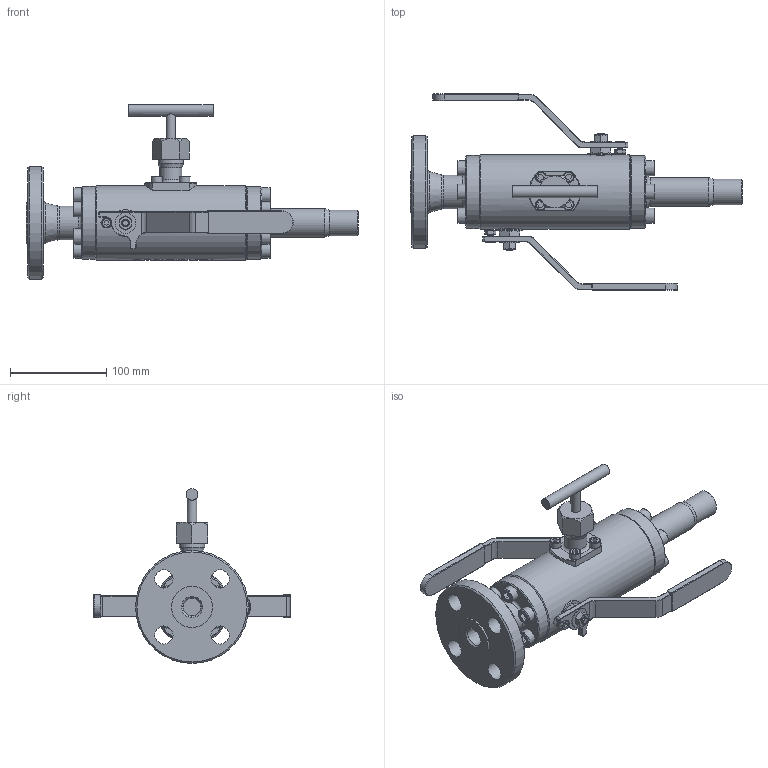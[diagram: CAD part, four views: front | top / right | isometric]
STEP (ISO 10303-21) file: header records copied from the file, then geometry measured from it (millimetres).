
FILE_DESCRIPTION(/* description */ (''),/* implementation_level */ '2;1');
FILE_NAME(/* name */ 'C:\Users\pc\Desktop\TFED-¾-300-PT-RFxPL-PALANCA.stp',/* time_stamp */ '2022-09-07T09:51:08-03:00',/* author */ ('pc'),/* organization */ (''),/* preprocessor_version */ 'ST-DEVELOPER v18',/* originating_system */ 'Autodesk Inventor 2020',/* authorisation */ '');
FILE_SCHEMA (('AUTOMOTIVE_DESIGN { 1 0 10303 214 3 1 1 }'));
Length unit declared in the file: millimetre
Products named in the file (2): TFED-¾-300-PT-RFxPL-PALANCA; TFED-¾-300-PT-RFxPL-PALANCA_1
Assembly tree (1 placements, depth 2):
  TFED-¾-300-PT-RFxPL-PALANCA
    TFED-¾-300-PT-RFxPL-PALANCA_1
Bounding box: 345.45 x 204.29 x 181.95 mm (x, y, z)
Volume: 1245730.8 mm3; surface area: 170851.5 mm2
Topology: 1 solids, 25 shells, 942 faces, 2583 edges, 1694 vertices
Faces by surface type: plane 366, cone 284, cylinder 213, torus 47, bspline 30, sphere 2
Full cylindrical faces by diameter (mm): 2.668 x1, 5.968 x4, 7.04 x4, 7.878 x24, 7.957 x2, 9.823 x1, 9.947 x2, 11.264 x4, 12.157 x1, 12.891 x2, 15.5 x1, 16 x12, 18 x1, 19 x4, 21.485 x2, 23.1 x1, 26.4 x1, 26.7 x1, 30 x1, 35 x1, 38 x1, 42.9 x1, 75.5 x1, 76 x1, 78 x1, 117.5 x1
Entity records: 35578 total; most frequent: CARTESIAN_POINT 11902, ORIENTED_EDGE 5162, DIRECTION 4831, EDGE_CURVE 2581, AXIS2_PLACEMENT_3D 1855, VERTEX_POINT 1694, LINE 1121, VECTOR 1121
